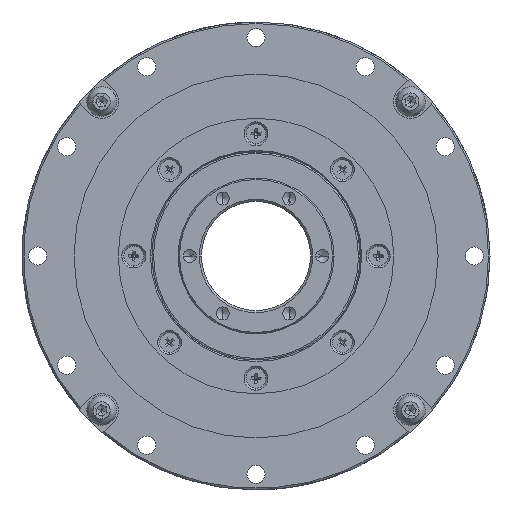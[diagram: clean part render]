
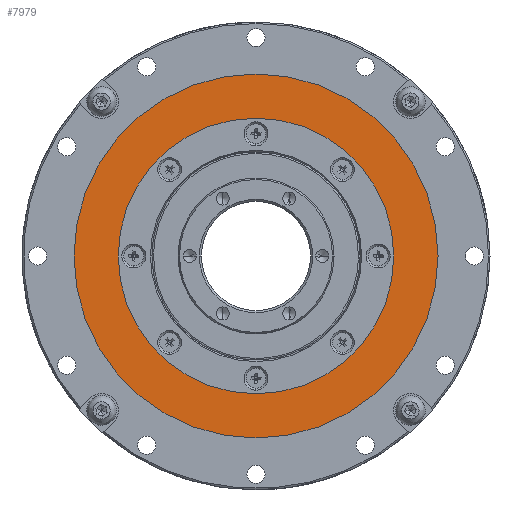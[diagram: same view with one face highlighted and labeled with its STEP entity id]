
A CAD part, left-side view. The second image highlights one B-rep face of the part: STEP entity #7979.
In plain terms, the highlighted planar face has unit normal (-1, 0, 0).
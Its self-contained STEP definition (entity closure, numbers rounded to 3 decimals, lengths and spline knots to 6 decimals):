
#959 = CARTESIAN_POINT ( 'NONE',  ( 0.002, 0., 0. ) ) ;
#2037 = CIRCLE ( 'NONE', #39360, 0.035 ) ;
#3367 = CIRCLE ( 'NONE', #20205, 0.0265 ) ;
#4840 = CARTESIAN_POINT ( 'NONE',  ( 0.002, 0., 0.0265 ) ) ;
#7979 = ADVANCED_FACE ( 'NONE', ( #59763, #66527 ), #26126, .F. ) ;
#8972 = DIRECTION ( 'NONE',  ( -1., 0., 0. ) ) ;
#12829 = ORIENTED_EDGE ( 'NONE', *, *, #65437, .F. ) ;
#13336 = DIRECTION ( 'NONE',  ( 1., 0., 0. ) ) ;
#14246 = AXIS2_PLACEMENT_3D ( 'NONE', #30293, #13336, #54077 ) ;
#15302 = VERTEX_POINT ( 'NONE', #4840 ) ;
#16411 = ORIENTED_EDGE ( 'NONE', *, *, #32717, .F. ) ;
#16757 = AXIS2_PLACEMENT_3D ( 'NONE', #959, #17151, #52236 ) ;
#17151 = DIRECTION ( 'NONE',  ( 1., 0., 0. ) ) ;
#18359 = DIRECTION ( 'NONE',  ( 0., 0., -1. ) ) ;
#20205 = AXIS2_PLACEMENT_3D ( 'NONE', #55009, #37292, #60306 ) ;
#20376 = CIRCLE ( 'NONE', #16757, 0.035 ) ;
#23317 = CARTESIAN_POINT ( 'NONE',  ( 0.002, 0., -0.0265 ) ) ;
#26126 = PLANE ( 'NONE',  #14246 ) ;
#28675 = VERTEX_POINT ( 'NONE', #23317 ) ;
#28920 = CARTESIAN_POINT ( 'NONE',  ( 0.002, 0., 0. ) ) ;
#30136 = AXIS2_PLACEMENT_3D ( 'NONE', #60666, #8972, #31981 ) ;
#30293 = CARTESIAN_POINT ( 'NONE',  ( 0.002, -0.035, 0. ) ) ;
#31981 = DIRECTION ( 'NONE',  ( 0., 0., -1. ) ) ;
#32717 = EDGE_CURVE ( 'NONE', #28675, #15302, #3367, .T. ) ;
#37292 = DIRECTION ( 'NONE',  ( -1., 0., 0. ) ) ;
#37684 = EDGE_LOOP ( 'NONE', ( #16411, #60871 ) ) ;
#39360 = AXIS2_PLACEMENT_3D ( 'NONE', #28920, #64405, #18359 ) ;
#45206 = EDGE_CURVE ( 'NONE', #15302, #28675, #56734, .T. ) ;
#52236 = DIRECTION ( 'NONE',  ( 0., 0., -1. ) ) ;
#54077 = DIRECTION ( 'NONE',  ( 0., 0., 1. ) ) ;
#55009 = CARTESIAN_POINT ( 'NONE',  ( 0.002, 0., 0. ) ) ;
#56734 = CIRCLE ( 'NONE', #30136, 0.0265 ) ;
#57196 = VERTEX_POINT ( 'NONE', #69607 ) ;
#57913 = EDGE_LOOP ( 'NONE', ( #65311, #12829 ) ) ;
#59763 = FACE_OUTER_BOUND ( 'NONE', #57913, .T. ) ;
#60306 = DIRECTION ( 'NONE',  ( 0., 0., -1. ) ) ;
#60666 = CARTESIAN_POINT ( 'NONE',  ( 0.002, 0., 0. ) ) ;
#60871 = ORIENTED_EDGE ( 'NONE', *, *, #45206, .F. ) ;
#64405 = DIRECTION ( 'NONE',  ( 1., 0., 0. ) ) ;
#65311 = ORIENTED_EDGE ( 'NONE', *, *, #70206, .F. ) ;
#65437 = EDGE_CURVE ( 'NONE', #57196, #66538, #2037, .T. ) ;
#66527 = FACE_BOUND ( 'NONE', #37684, .T. ) ;
#66538 = VERTEX_POINT ( 'NONE', #72287 ) ;
#69607 = CARTESIAN_POINT ( 'NONE',  ( 0.002, 0., 0.035 ) ) ;
#70206 = EDGE_CURVE ( 'NONE', #66538, #57196, #20376, .T. ) ;
#72287 = CARTESIAN_POINT ( 'NONE',  ( 0.002, 0., -0.035 ) ) ;
